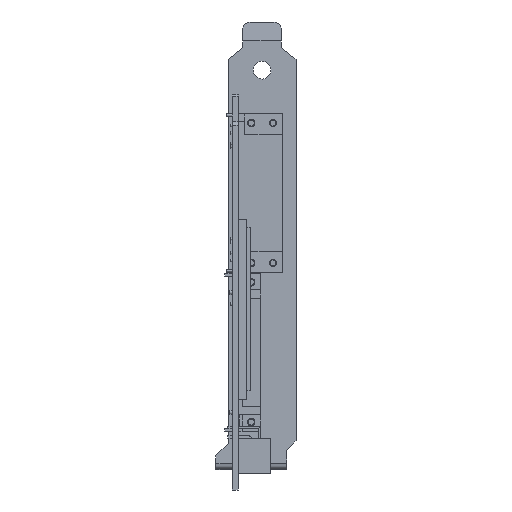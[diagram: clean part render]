
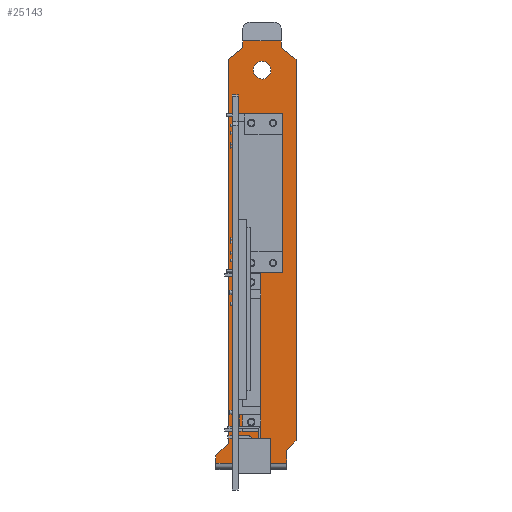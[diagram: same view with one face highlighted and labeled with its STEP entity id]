
A CAD part, front view. The second image highlights one B-rep face of the part: STEP entity #25143.
In plain terms, the highlighted planar face has unit normal (0, -1, 0).
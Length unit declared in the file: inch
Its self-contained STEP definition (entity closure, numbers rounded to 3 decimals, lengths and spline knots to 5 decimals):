
#6914=DIRECTION('',(1.,0.,0.));
#6915=VECTOR('',#6914,0.412);
#6916=CARTESIAN_POINT('',(0.108,0.33,0.764));
#6917=LINE('',#6916,#6915);
#6918=DIRECTION('',(0.,0.,-1.));
#6919=VECTOR('',#6918,0.074);
#6920=CARTESIAN_POINT('',(0.52,0.33,0.764));
#6921=LINE('',#6920,#6919);
#6922=DIRECTION('',(-0.788,0.,0.616));
#6923=VECTOR('',#6922,0.1967);
#6924=CARTESIAN_POINT('',(0.675,0.33,0.5689));
#6925=LINE('',#6924,#6923);
#6926=DIRECTION('',(0.707,0.,0.707));
#6927=VECTOR('',#6926,0.14142);
#6928=CARTESIAN_POINT('',(0.575,0.33,-3.583));
#6929=LINE('',#6928,#6927);
#6930=DIRECTION('',(0.,0.,1.));
#6931=VECTOR('',#6930,0.137);
#6932=CARTESIAN_POINT('',(0.575,0.33,-3.72));
#6933=LINE('',#6932,#6931);
#6934=DIRECTION('',(-1.,0.,0.));
#6935=VECTOR('',#6934,0.75);
#6936=CARTESIAN_POINT('',(0.575,0.33,-3.72));
#6937=LINE('',#6936,#6935);
#6938=DIRECTION('',(-0.707,0.,-0.707));
#6939=VECTOR('',#6938,0.18102);
#6940=CARTESIAN_POINT('',(-0.047,0.33,-3.514));
#6941=LINE('',#6940,#6939);
#6942=DIRECTION('',(0.,0.,-1.));
#6943=VECTOR('',#6942,4.0829);
#6944=CARTESIAN_POINT('',(-0.047,0.33,0.5689));
#6945=LINE('',#6944,#6943);
#6946=DIRECTION('',(-0.788,0.,-0.616));
#6947=VECTOR('',#6946,0.1967);
#6948=CARTESIAN_POINT('',(0.108,0.33,0.69));
#6949=LINE('',#6948,#6947);
#6950=DIRECTION('',(0.,0.,-1.));
#6951=VECTOR('',#6950,0.074);
#6952=CARTESIAN_POINT('',(0.108,0.33,0.764));
#6953=LINE('',#6952,#6951);
#6954=CARTESIAN_POINT('',(0.314,0.33,0.453));
#6955=DIRECTION('',(0.,1.,0.));
#6956=DIRECTION('',(0.,0.,1.));
#6957=AXIS2_PLACEMENT_3D('',#6954,#6955,#6956);
#6959=CARTESIAN_POINT('',(0.314,0.33,0.453));
#6960=DIRECTION('',(0.,1.,0.));
#6961=DIRECTION('',(0.,0.,-1.));
#6962=AXIS2_PLACEMENT_3D('',#6959,#6960,#6961);
#6964=DIRECTION('',(-1.,0.,0.));
#6965=VECTOR('',#6964,0.46614);
#6966=CARTESIAN_POINT('',(0.52814,0.33,-0.01));
#6967=LINE('',#6966,#6965);
#6968=DIRECTION('',(0.,0.,-1.));
#6969=VECTOR('',#6968,1.6811);
#6970=CARTESIAN_POINT('',(0.062,0.33,-0.01));
#6971=LINE('',#6970,#6969);
#6972=DIRECTION('',(1.,0.,0.));
#6973=VECTOR('',#6972,0.46614);
#6974=CARTESIAN_POINT('',(0.062,0.33,-1.6911));
#6975=LINE('',#6974,#6973);
#6976=DIRECTION('',(0.,0.,1.));
#6977=VECTOR('',#6976,1.6811);
#6978=CARTESIAN_POINT('',(0.52814,0.33,-1.6911));
#6979=LINE('',#6978,#6977);
#6980=DIRECTION('',(0.,0.,1.));
#6981=VECTOR('',#6980,1.32677);
#6982=CARTESIAN_POINT('',(0.062,0.33,-3.20504));
#6983=LINE('',#6982,#6981);
#6984=DIRECTION('',(1.,0.,0.));
#6985=VECTOR('',#6984,0.03937);
#6986=CARTESIAN_POINT('',(0.062,0.33,-3.20504));
#6987=LINE('',#6986,#6985);
#6988=DIRECTION('',(0.,0.,-1.));
#6989=VECTOR('',#6988,0.17717);
#6990=CARTESIAN_POINT('',(0.10137,0.33,-3.20504));
#6991=LINE('',#6990,#6989);
#6992=DIRECTION('',(1.,0.,0.));
#6993=VECTOR('',#6992,0.19685);
#6994=CARTESIAN_POINT('',(0.10137,0.33,-3.3822));
#6995=LINE('',#6994,#6993);
#6996=DIRECTION('',(0.,0.,1.));
#6997=VECTOR('',#6996,1.6811);
#6998=CARTESIAN_POINT('',(0.29822,0.33,-3.3822));
#6999=LINE('',#6998,#6997);
#7000=DIRECTION('',(1.,0.,0.));
#7001=VECTOR('',#7000,0.19685);
#7002=CARTESIAN_POINT('',(0.10137,0.33,-1.7011));
#7003=LINE('',#7002,#7001);
#7004=DIRECTION('',(0.,0.,1.));
#7005=VECTOR('',#7004,0.17717);
#7006=CARTESIAN_POINT('',(0.10137,0.33,-1.87827));
#7007=LINE('',#7006,#7005);
#7008=DIRECTION('',(1.,0.,0.));
#7009=VECTOR('',#7008,0.03937);
#7010=CARTESIAN_POINT('',(0.062,0.33,-1.87827));
#7011=LINE('',#7010,#7009);
#7058=DIRECTION('',(0.,0.,1.));
#7059=VECTOR('',#7058,0.078);
#7060=CARTESIAN_POINT('',(-0.175,0.33,-3.72));
#7061=LINE('',#7060,#7059);
#7410=DIRECTION('',(0.,0.,1.));
#7411=VECTOR('',#7410,4.0519);
#7412=CARTESIAN_POINT('',(0.675,0.33,-3.483));
#7413=LINE('',#7412,#7411);
#14619=CARTESIAN_POINT('',(-0.175,0.33,-3.72));
#14621=VERTEX_POINT('',#14619);
#14622=CARTESIAN_POINT('',(0.575,0.33,-3.72));
#14624=VERTEX_POINT('',#14622);
#14626=CARTESIAN_POINT('',(0.575,0.33,-3.583));
#14627=VERTEX_POINT('',#14626);
#14628=CARTESIAN_POINT('',(0.675,0.33,-3.483));
#14629=VERTEX_POINT('',#14628);
#14630=CARTESIAN_POINT('',(0.108,0.33,0.69));
#14631=CARTESIAN_POINT('',(-0.047,0.33,0.5689));
#14632=VERTEX_POINT('',#14630);
#14633=VERTEX_POINT('',#14631);
#14634=CARTESIAN_POINT('',(-0.047,0.33,-3.514));
#14635=VERTEX_POINT('',#14634);
#14636=CARTESIAN_POINT('',(-0.175,0.33,-3.642));
#14637=VERTEX_POINT('',#14636);
#14638=CARTESIAN_POINT('',(0.675,0.33,0.5689));
#14639=CARTESIAN_POINT('',(0.52,0.33,0.69));
#14640=VERTEX_POINT('',#14638);
#14641=VERTEX_POINT('',#14639);
#14750=CARTESIAN_POINT('',(0.314,0.33,0.5465));
#14751=CARTESIAN_POINT('',(0.314,0.33,0.3595));
#14752=VERTEX_POINT('',#14750);
#14753=VERTEX_POINT('',#14751);
#14754=CARTESIAN_POINT('',(0.108,0.33,0.764));
#14755=VERTEX_POINT('',#14754);
#14756=CARTESIAN_POINT('',(0.52,0.33,0.764));
#14757=VERTEX_POINT('',#14756);
#15156=CARTESIAN_POINT('',(0.52814,0.33,-0.01));
#15157=CARTESIAN_POINT('',(0.062,0.33,-0.01));
#15158=VERTEX_POINT('',#15156);
#15159=VERTEX_POINT('',#15157);
#15160=CARTESIAN_POINT('',(0.062,0.33,-1.6911));
#15161=VERTEX_POINT('',#15160);
#15162=CARTESIAN_POINT('',(0.52814,0.33,-1.6911));
#15163=VERTEX_POINT('',#15162);
#15512=CARTESIAN_POINT('',(0.062,0.33,-3.20504));
#15513=CARTESIAN_POINT('',(0.062,0.33,-1.87827));
#15514=VERTEX_POINT('',#15512);
#15515=VERTEX_POINT('',#15513);
#15516=CARTESIAN_POINT('',(0.29822,0.33,-3.3822));
#15517=CARTESIAN_POINT('',(0.29822,0.33,-1.7011));
#15518=VERTEX_POINT('',#15516);
#15519=VERTEX_POINT('',#15517);
#15520=CARTESIAN_POINT('',(0.10137,0.33,-1.7011));
#15521=VERTEX_POINT('',#15520);
#15522=CARTESIAN_POINT('',(0.10137,0.33,-1.87827));
#15523=VERTEX_POINT('',#15522);
#15524=CARTESIAN_POINT('',(0.10137,0.33,-3.20504));
#15525=VERTEX_POINT('',#15524);
#15526=CARTESIAN_POINT('',(0.10137,0.33,-3.3822));
#15527=VERTEX_POINT('',#15526);
#25083=CARTESIAN_POINT('',(0.675,0.33,-3.72));
#25084=DIRECTION('',(0.,1.,0.));
#25085=DIRECTION('',(0.,0.,1.));
#25086=AXIS2_PLACEMENT_3D('',#25083,#25084,#25085);
#25087=PLANE('',#25086);
#25089=ORIENTED_EDGE('',*,*,#25088,.T.);
#25091=ORIENTED_EDGE('',*,*,#25090,.T.);
#25093=ORIENTED_EDGE('',*,*,#25092,.F.);
#25095=ORIENTED_EDGE('',*,*,#25094,.F.);
#25097=ORIENTED_EDGE('',*,*,#25096,.F.);
#25099=ORIENTED_EDGE('',*,*,#25098,.F.);
#25101=ORIENTED_EDGE('',*,*,#25100,.T.);
#25103=ORIENTED_EDGE('',*,*,#25102,.T.);
#25105=ORIENTED_EDGE('',*,*,#25104,.F.);
#25107=ORIENTED_EDGE('',*,*,#25106,.F.);
#25109=ORIENTED_EDGE('',*,*,#25108,.F.);
#25111=ORIENTED_EDGE('',*,*,#25110,.F.);
#25112=EDGE_LOOP('',(#25089,#25091,#25093,#25095,#25097,#25099,#25101,#25103,
#25105,#25107,#25109,#25111));
#25113=FACE_OUTER_BOUND('',#25112,.F.);
#25115=ORIENTED_EDGE('',*,*,#25114,.F.);
#25117=ORIENTED_EDGE('',*,*,#25116,.F.);
#25118=EDGE_LOOP('',(#25115,#25117));
#25119=FACE_BOUND('',#25118,.F.);
#25120=ORIENTED_EDGE('',*,*,#25070,.T.);
#25121=ORIENTED_EDGE('',*,*,#17420,.T.);
#25122=ORIENTED_EDGE('',*,*,#17441,.T.);
#25124=ORIENTED_EDGE('',*,*,#25123,.T.);
#25125=EDGE_LOOP('',(#25120,#25121,#25122,#25124));
#25126=FACE_BOUND('',#25125,.F.);
#25127=ORIENTED_EDGE('',*,*,#17386,.F.);
#25129=ORIENTED_EDGE('',*,*,#25128,.T.);
#25131=ORIENTED_EDGE('',*,*,#25130,.T.);
#25133=ORIENTED_EDGE('',*,*,#25132,.T.);
#25135=ORIENTED_EDGE('',*,*,#25134,.T.);
#25137=ORIENTED_EDGE('',*,*,#25136,.F.);
#25139=ORIENTED_EDGE('',*,*,#25138,.F.);
#25140=ORIENTED_EDGE('',*,*,#17349,.F.);
#25141=EDGE_LOOP('',(#25127,#25129,#25131,#25133,#25135,#25137,#25139,#25140));
#25142=FACE_BOUND('',#25141,.F.);
#25143=ADVANCED_FACE('',(#25113,#25119,#25126,#25142),#25087,.F.);
#6958=CIRCLE('',#6957,0.0935);
#6963=CIRCLE('',#6962,0.0935);
#17349=EDGE_CURVE('',#15515,#15523,#7011,.T.);
#17386=EDGE_CURVE('',#15514,#15515,#6983,.T.);
#17420=EDGE_CURVE('',#15159,#15161,#6971,.T.);
#17441=EDGE_CURVE('',#15161,#15163,#6975,.T.);
#25070=EDGE_CURVE('',#15158,#15159,#6967,.T.);
#25088=EDGE_CURVE('',#14755,#14757,#6917,.T.);
#25090=EDGE_CURVE('',#14757,#14641,#6921,.T.);
#25092=EDGE_CURVE('',#14640,#14641,#6925,.T.);
#25094=EDGE_CURVE('',#14629,#14640,#7413,.T.);
#25096=EDGE_CURVE('',#14627,#14629,#6929,.T.);
#25098=EDGE_CURVE('',#14624,#14627,#6933,.T.);
#25100=EDGE_CURVE('',#14624,#14621,#6937,.T.);
#25102=EDGE_CURVE('',#14621,#14637,#7061,.T.);
#25104=EDGE_CURVE('',#14635,#14637,#6941,.T.);
#25106=EDGE_CURVE('',#14633,#14635,#6945,.T.);
#25108=EDGE_CURVE('',#14632,#14633,#6949,.T.);
#25110=EDGE_CURVE('',#14755,#14632,#6953,.T.);
#25114=EDGE_CURVE('',#14752,#14753,#6958,.T.);
#25116=EDGE_CURVE('',#14753,#14752,#6963,.T.);
#25123=EDGE_CURVE('',#15163,#15158,#6979,.T.);
#25128=EDGE_CURVE('',#15514,#15525,#6987,.T.);
#25130=EDGE_CURVE('',#15525,#15527,#6991,.T.);
#25132=EDGE_CURVE('',#15527,#15518,#6995,.T.);
#25134=EDGE_CURVE('',#15518,#15519,#6999,.T.);
#25136=EDGE_CURVE('',#15521,#15519,#7003,.T.);
#25138=EDGE_CURVE('',#15523,#15521,#7007,.T.);
